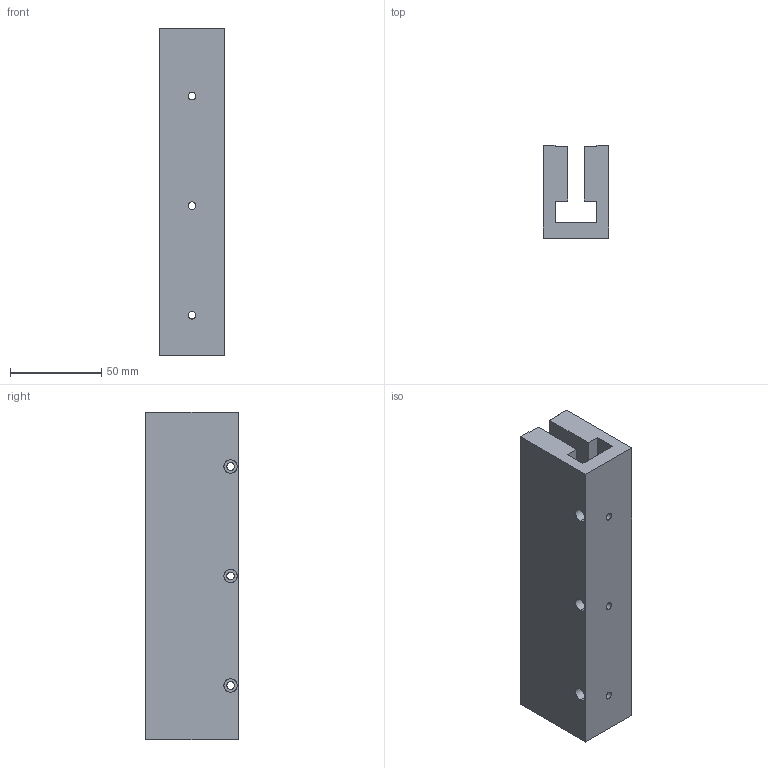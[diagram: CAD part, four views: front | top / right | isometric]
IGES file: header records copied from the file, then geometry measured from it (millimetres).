
Start section: SolidWorks IGES file using analytic representation for surfaces
Bounding box: 35.7 x 50.8 x 179.5 mm (x, y, z)
Surface area: 55740.9 mm2 (no closed solid volume)
Topology: 0 solids, 0 shells, 48 faces, 960 edges, 960 vertices
Faces by surface type: revolution 24, bspline 24
